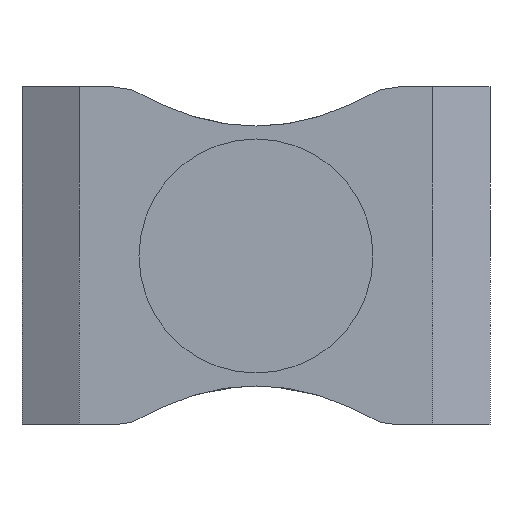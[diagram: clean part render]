
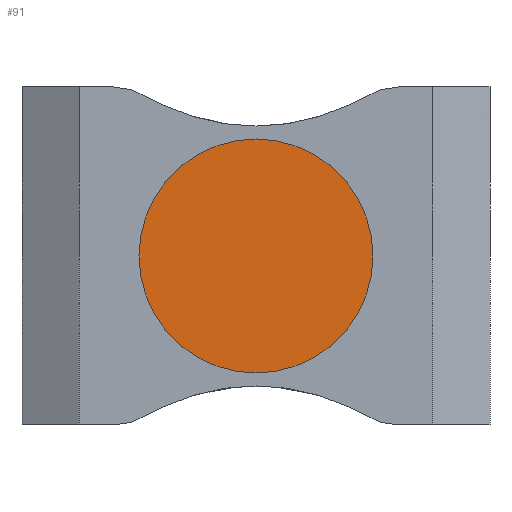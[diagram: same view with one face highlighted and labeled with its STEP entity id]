
A CAD part, front view. The second image highlights one B-rep face of the part: STEP entity #91.
In plain terms, the highlighted planar face has unit normal (0, -1, 0).
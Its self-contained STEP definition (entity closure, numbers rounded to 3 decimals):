
#91 = ADVANCED_FACE ( 'NONE', ( #1134 ), #208, .T. ) ;
#208 = PLANE ( 'NONE',  #778 ) ;
#268 = EDGE_CURVE ( 'NONE', #1577, #1823, #388, .T. ) ;
#355 = CARTESIAN_POINT ( 'NONE',  ( 0., -112.7, 0. ) ) ;
#372 = DIRECTION ( 'NONE',  ( 0., 0., -1. ) ) ;
#388 = CIRCLE ( 'NONE', #431, 9. ) ;
#408 = DIRECTION ( 'NONE',  ( 0., -1., 0. ) ) ;
#431 = AXIS2_PLACEMENT_3D ( 'NONE', #2040, #1863, #1891 ) ;
#587 = EDGE_CURVE ( 'NONE', #1823, #1577, #1221, .T. ) ;
#778 = AXIS2_PLACEMENT_3D ( 'NONE', #355, #1923, #372 ) ;
#866 = ORIENTED_EDGE ( 'NONE', *, *, #268, .T. ) ;
#881 = CARTESIAN_POINT ( 'NONE',  ( 0., -112.7, 0. ) ) ;
#1134 = FACE_OUTER_BOUND ( 'NONE', #1338, .T. ) ;
#1221 = CIRCLE ( 'NONE', #1835, 9. ) ;
#1331 = DIRECTION ( 'NONE',  ( 0., 0., -1. ) ) ;
#1338 = EDGE_LOOP ( 'NONE', ( #866, #1427 ) ) ;
#1427 = ORIENTED_EDGE ( 'NONE', *, *, #587, .T. ) ;
#1577 = VERTEX_POINT ( 'NONE', #1850 ) ;
#1823 = VERTEX_POINT ( 'NONE', #1978 ) ;
#1835 = AXIS2_PLACEMENT_3D ( 'NONE', #881, #408, #1331 ) ;
#1850 = CARTESIAN_POINT ( 'NONE',  ( 0., -112.7, 9. ) ) ;
#1863 = DIRECTION ( 'NONE',  ( 0., -1., 0. ) ) ;
#1891 = DIRECTION ( 'NONE',  ( 0., 0., -1. ) ) ;
#1923 = DIRECTION ( 'NONE',  ( 0., -1., 0. ) ) ;
#1978 = CARTESIAN_POINT ( 'NONE',  ( 0., -112.7, -9. ) ) ;
#2040 = CARTESIAN_POINT ( 'NONE',  ( 0., -112.7, 0. ) ) ;
